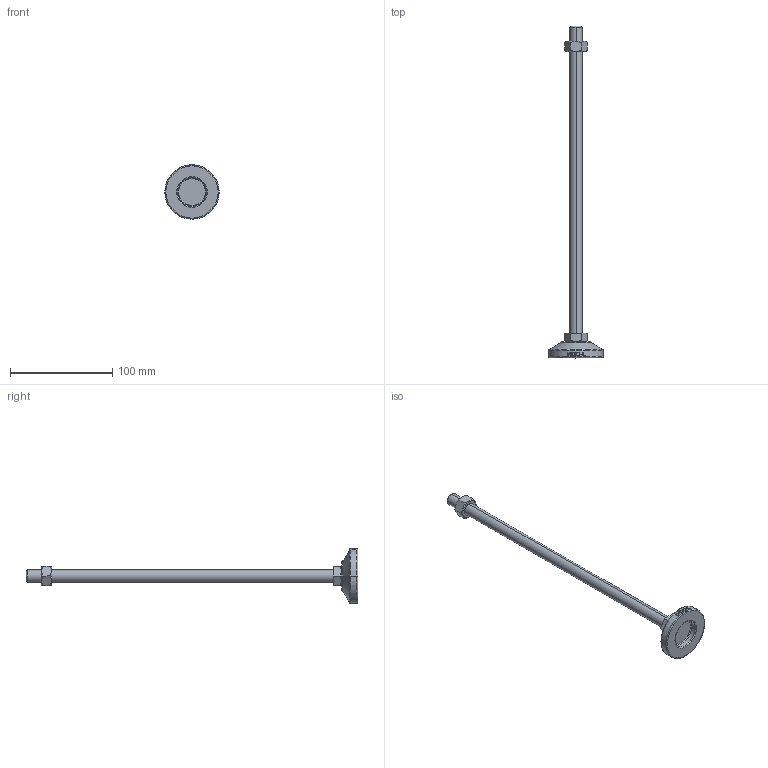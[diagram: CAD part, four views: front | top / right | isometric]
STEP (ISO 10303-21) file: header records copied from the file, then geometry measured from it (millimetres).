
FILE_DESCRIPTION (( 'STEP AP214' ), '1' );
FILE_NAME ('MF53-M12-300.step', '2021-02-03T08:16:44', ( '' ), ( '' ), 'SwSTEP 2.0', 'SolidWorks 2019', '' );
FILE_SCHEMA (( 'AUTOMOTIVE_DESIGN' ));
Length unit declared in the file: millimetre
Products named in the file (2): MF53-M12-300
Bounding box: 53 x 324 x 53 mm (x, y, z)
Volume: 62055.1 mm3; surface area: 20259.9 mm2
Topology: 3 solids, 3 shells, 106 faces, 243 edges, 154 vertices
Faces by surface type: plane 48, cylinder 18, bspline 16, cone 14, torus 10
Entity records: 4394 total; most frequent: CARTESIAN_POINT 2051, ORIENTED_EDGE 486, DIRECTION 439, EDGE_CURVE 243, AXIS2_PLACEMENT_3D 170, VERTEX_POINT 154, EDGE_LOOP 119, ADVANCED_FACE 106
